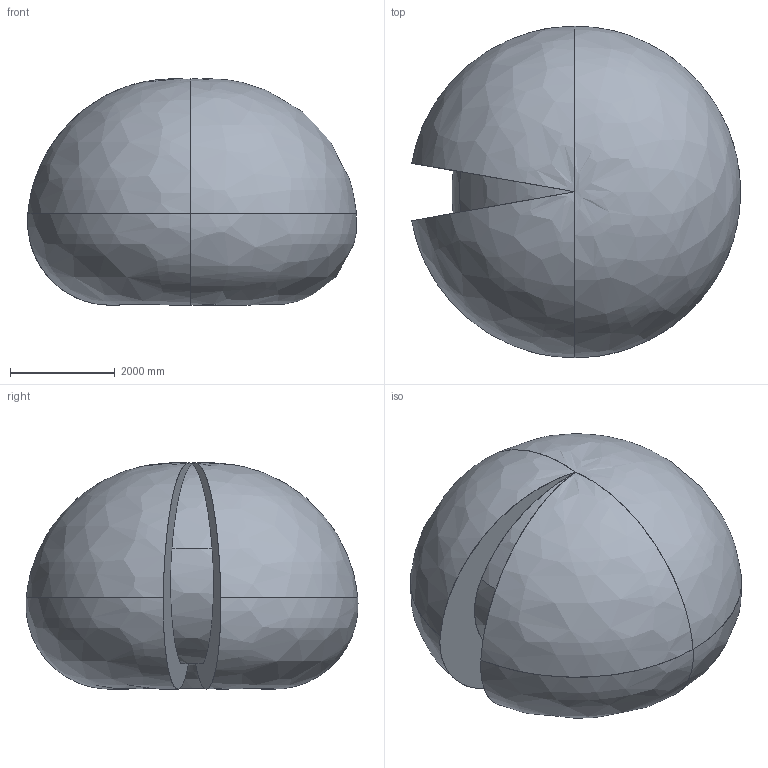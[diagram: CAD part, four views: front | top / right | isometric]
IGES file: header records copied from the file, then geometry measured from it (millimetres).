
Start section: SolidWorks IGES file using analytic representation for surfaces
Global section: file name: C:\Data\SAP_DOC\IRB6740_lightweight\6740\IRB6740_240kg-320_OC_01_SW_J\IRB6740_240kg-320_OC_01_IGES_J\IRB6740_240kg-320_OC_00_Working-space.igs; native system: SolidWorks 2024; preprocessor: SolidWorks 2024; author: SEJAOLS6; date: 260513.070338; units: millimetre
Bounding box: 6293.48 x 6349.57 x 4328.18 mm (x, y, z)
Surface area: 132690385.8 mm2 (no closed solid volume)
Topology: 0 solids, 0 shells, 22 faces, 474 edges, 466 vertices
Faces by surface type: bspline 22
